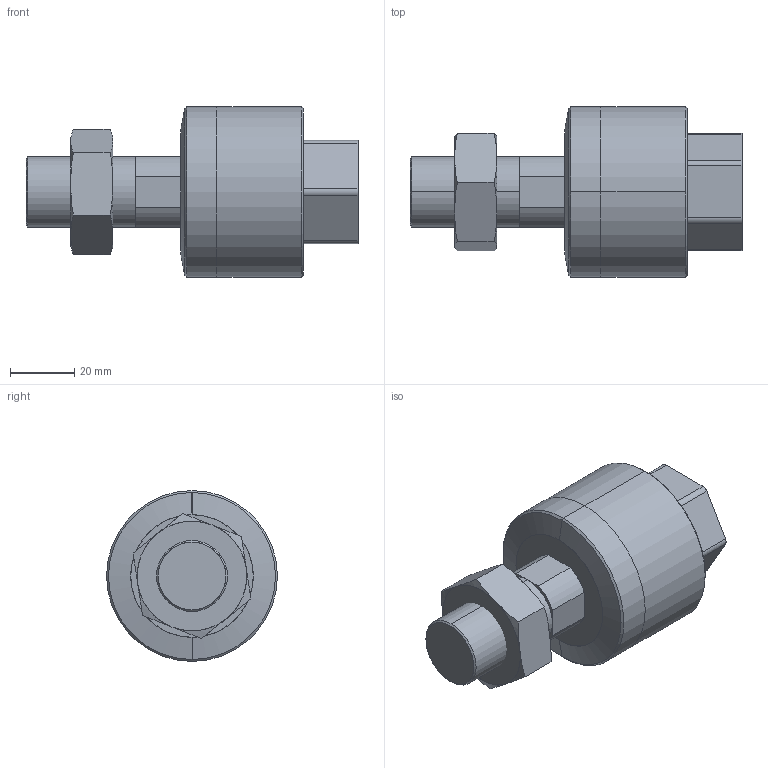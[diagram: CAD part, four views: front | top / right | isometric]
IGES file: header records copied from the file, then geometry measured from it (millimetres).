
Start section: SolidWorks IGES file using analytic representation for surfaces
Global section: file name: D:\MI\新增資料夾\FC\FCM22A-1.5.IGS; native system: SolidWorks 2013; preprocessor: SolidWorks 2013; author: Sam Lin; date: 160323.114226; units: millimetre
Bounding box: 103 x 53 x 53 mm (x, y, z)
Surface area: 20582.6 mm2 (no closed solid volume)
Topology: 0 solids, 0 shells, 68 faces, 870 edges, 868 vertices
Faces by surface type: bspline 38, revolution 30
